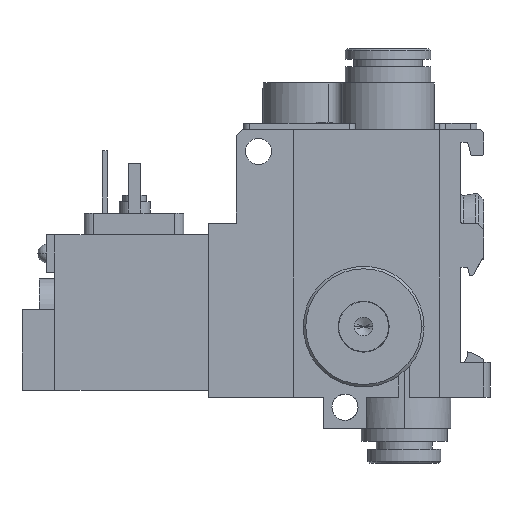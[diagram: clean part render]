
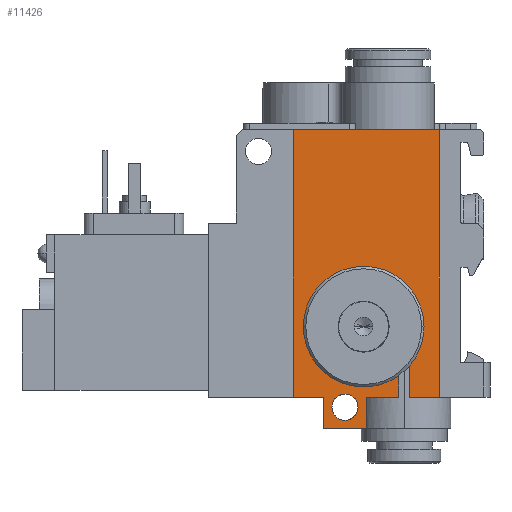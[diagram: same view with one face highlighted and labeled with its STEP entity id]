
A CAD part, left-side view. The second image highlights one B-rep face of the part: STEP entity #11426.
In plain terms, the highlighted planar face has unit normal (-1, 0, 0).
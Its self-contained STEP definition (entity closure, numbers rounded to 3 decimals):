
#438=DIRECTION('',(0.,-1.,0.));
#439=VECTOR('',#438,26.7);
#440=CARTESIAN_POINT('',(-9.946,12.95,21.5));
#441=LINE('',#440,#439);
#721=CARTESIAN_POINT('',(-9.946,3.,-23.1));
#722=DIRECTION('',(1.,0.,0.));
#723=DIRECTION('',(0.,0.,-1.));
#724=AXIS2_PLACEMENT_3D('',#721,#722,#723);
#726=CARTESIAN_POINT('',(-9.946,3.,-23.1));
#727=DIRECTION('',(1.,0.,0.));
#728=DIRECTION('',(0.,0.,1.));
#729=AXIS2_PLACEMENT_3D('',#726,#727,#728);
#731=CARTESIAN_POINT('',(-9.946,0.,-10.15));
#732=DIRECTION('',(1.,0.,0.));
#733=DIRECTION('',(0.,1.,0.));
#734=AXIS2_PLACEMENT_3D('',#731,#732,#733);
#736=CARTESIAN_POINT('',(-9.946,0.,-10.15));
#737=DIRECTION('',(1.,0.,0.));
#738=DIRECTION('',(0.,-0.581,-0.814));
#739=AXIS2_PLACEMENT_3D('',#736,#737,#738);
#741=DIRECTION('',(0.,0.,-1.));
#742=VECTOR('',#741,3.455);
#743=CARTESIAN_POINT('',(-9.946,-5.636,
-18.045));
#744=LINE('',#743,#742);
#745=DIRECTION('',(0.,0.,-1.));
#746=VECTOR('',#745,5.);
#747=CARTESIAN_POINT('',(-9.946,-0.5,-21.5));
#748=LINE('',#747,#746);
#749=DIRECTION('',(0.,0.,1.));
#750=VECTOR('',#749,43.);
#751=CARTESIAN_POINT('',(-9.946,12.95,-21.5));
#752=LINE('',#751,#750);
#753=DIRECTION('',(0.,0.,-1.));
#754=VECTOR('',#753,5.);
#755=CARTESIAN_POINT('',(-9.946,-7.364,-16.5));
#756=LINE('',#755,#754);
#757=DIRECTION('',(0.,1.,0.));
#758=VECTOR('',#757,0.031);
#759=CARTESIAN_POINT('',(-9.946,-7.364,-16.5));
#760=LINE('',#759,#758);
#761=CARTESIAN_POINT('',(-9.946,0.,-10.15));
#762=DIRECTION('',(1.,0.,0.));
#763=DIRECTION('',(0.,-1.,0.));
#764=AXIS2_PLACEMENT_3D('',#761,#762,#763);
#820=DIRECTION('',(0.,-1.,0.));
#821=VECTOR('',#820,5.136);
#822=CARTESIAN_POINT('',(-9.946,-0.5,-21.5));
#823=LINE('',#822,#821);
#1071=DIRECTION('',(0.,-1.,0.));
#1072=VECTOR('',#1071,6.45);
#1073=CARTESIAN_POINT('',(-9.946,12.95,-21.5));
#1074=LINE('',#1073,#1072);
#1108=DIRECTION('',(0.,-1.,0.));
#1109=VECTOR('',#1108,6.386);
#1110=CARTESIAN_POINT('',(-9.946,-7.364,-21.5));
#1111=LINE('',#1110,#1109);
#1880=DIRECTION('',(0.,1.,0.));
#1881=VECTOR('',#1880,7.);
#1882=CARTESIAN_POINT('',(-9.946,-0.5,-26.5));
#1883=LINE('',#1882,#1881);
#2120=DIRECTION('',(0.,0.,-1.));
#2121=VECTOR('',#2120,5.);
#2122=CARTESIAN_POINT('',(-9.946,6.5,-21.5));
#2123=LINE('',#2122,#2121);
#5575=DIRECTION('',(0.,0.,1.));
#5576=VECTOR('',#5575,43.);
#5577=CARTESIAN_POINT('',(-9.946,-13.75,-21.5));
#5578=LINE('',#5577,#5576);
#8284=CARTESIAN_POINT('',(-9.946,12.95,-21.5));
#8285=VERTEX_POINT('',#8284);
#8286=CARTESIAN_POINT('',(-9.946,-13.75,-21.5));
#8288=VERTEX_POINT('',#8286);
#8313=CARTESIAN_POINT('',(-9.946,12.95,21.5));
#8315=VERTEX_POINT('',#8313);
#8316=CARTESIAN_POINT('',(-9.946,-13.75,21.5));
#8317=VERTEX_POINT('',#8316);
#8476=CARTESIAN_POINT('',(-9.946,6.5,-26.5));
#8478=VERTEX_POINT('',#8476);
#8482=CARTESIAN_POINT('',(-9.946,-0.5,-26.5));
#8483=VERTEX_POINT('',#8482);
#8484=CARTESIAN_POINT('',(-9.946,6.5,-21.5));
#8485=VERTEX_POINT('',#8484);
#8518=CARTESIAN_POINT('',(-9.946,-0.5,-21.5));
#8519=VERTEX_POINT('',#8518);
#8535=CARTESIAN_POINT('',(-9.946,3.,-25.2));
#8537=VERTEX_POINT('',#8535);
#8539=CARTESIAN_POINT('',(-9.946,3.,-21.));
#8541=VERTEX_POINT('',#8539);
#8608=CARTESIAN_POINT('',(-9.946,9.7,-10.15));
#8609=VERTEX_POINT('',#8608);
#8610=CARTESIAN_POINT('',(-9.946,-9.7,-10.15));
#8611=VERTEX_POINT('',#8610);
#10016=CARTESIAN_POINT('',(-9.946,-5.636,-21.5));
#10017=VERTEX_POINT('',#10016);
#10019=CARTESIAN_POINT('',(-9.946,-7.364,-21.5));
#10021=VERTEX_POINT('',#10019);
#10022=CARTESIAN_POINT('',(-9.946,-7.364,-16.5));
#10023=VERTEX_POINT('',#10022);
#10048=CARTESIAN_POINT('',(-9.946,-7.333,-16.5));
#10049=VERTEX_POINT('',#10048);
#10050=CARTESIAN_POINT('',(-9.946,-5.636,
-18.045));
#10051=VERTEX_POINT('',#10050);
#11387=CARTESIAN_POINT('',(-9.946,12.95,-21.5));
#11388=DIRECTION('',(-1.,0.,0.));
#11389=DIRECTION('',(0.,-1.,0.));
#11390=AXIS2_PLACEMENT_3D('',#11387,#11388,#11389);
#11391=PLANE('',#11390);
#11392=ORIENTED_EDGE('',*,*,#11380,.F.);
#11393=ORIENTED_EDGE('',*,*,#11369,.F.);
#11395=ORIENTED_EDGE('',*,*,#11394,.T.);
#11397=ORIENTED_EDGE('',*,*,#11396,.F.);
#11399=ORIENTED_EDGE('',*,*,#11398,.T.);
#11401=ORIENTED_EDGE('',*,*,#11400,.T.);
#11403=ORIENTED_EDGE('',*,*,#11402,.F.);
#11405=ORIENTED_EDGE('',*,*,#11404,.F.);
#11407=ORIENTED_EDGE('',*,*,#11406,.T.);
#11408=ORIENTED_EDGE('',*,*,#10955,.T.);
#11410=ORIENTED_EDGE('',*,*,#11409,.F.);
#11412=ORIENTED_EDGE('',*,*,#11411,.F.);
#11414=ORIENTED_EDGE('',*,*,#11413,.F.);
#11416=ORIENTED_EDGE('',*,*,#11415,.T.);
#11417=ORIENTED_EDGE('',*,*,#11361,.F.);
#11418=EDGE_LOOP('',(#11392,#11393,#11395,#11397,#11399,#11401,#11403,#11405,
#11407,#11408,#11410,#11412,#11414,#11416,#11417));
#11419=FACE_OUTER_BOUND('',#11418,.F.);
#11421=ORIENTED_EDGE('',*,*,#11420,.F.);
#11423=ORIENTED_EDGE('',*,*,#11422,.F.);
#11424=EDGE_LOOP('',(#11421,#11423));
#11425=FACE_BOUND('',#11424,.F.);
#11426=ADVANCED_FACE('',(#11419,#11425),#11391,.T.);
#725=CIRCLE('',#724,2.1);
#730=CIRCLE('',#729,2.1);
#735=CIRCLE('',#734,9.7);
#740=CIRCLE('',#739,9.7);
#765=CIRCLE('',#764,9.7);
#10955=EDGE_CURVE('',#8315,#8317,#441,.T.);
#11361=EDGE_CURVE('',#8611,#10049,#765,.T.);
#11369=EDGE_CURVE('',#10051,#8609,#740,.T.);
#11380=EDGE_CURVE('',#8609,#8611,#735,.T.);
#11394=EDGE_CURVE('',#10051,#10017,#744,.T.);
#11396=EDGE_CURVE('',#8519,#10017,#823,.T.);
#11398=EDGE_CURVE('',#8519,#8483,#748,.T.);
#11400=EDGE_CURVE('',#8483,#8478,#1883,.T.);
#11402=EDGE_CURVE('',#8485,#8478,#2123,.T.);
#11404=EDGE_CURVE('',#8285,#8485,#1074,.T.);
#11406=EDGE_CURVE('',#8285,#8315,#752,.T.);
#11409=EDGE_CURVE('',#8288,#8317,#5578,.T.);
#11411=EDGE_CURVE('',#10021,#8288,#1111,.T.);
#11413=EDGE_CURVE('',#10023,#10021,#756,.T.);
#11415=EDGE_CURVE('',#10023,#10049,#760,.T.);
#11420=EDGE_CURVE('',#8537,#8541,#725,.T.);
#11422=EDGE_CURVE('',#8541,#8537,#730,.T.);
